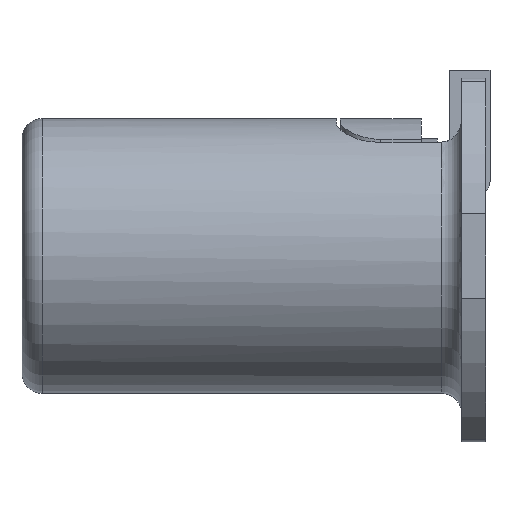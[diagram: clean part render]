
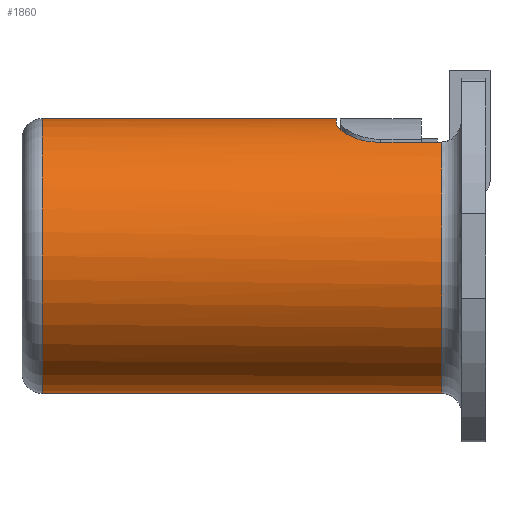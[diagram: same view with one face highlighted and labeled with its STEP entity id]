
A CAD part, left-side view. The second image highlights one B-rep face of the part: STEP entity #1860.
In plain terms, the highlighted cylindrical face has radius 1.7 mm (diameter 3.4 mm), a partial arc.
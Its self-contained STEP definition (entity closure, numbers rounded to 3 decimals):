
#254=CARTESIAN_POINT('',(0.,1.85,0.));
#255=DIRECTION('',(0.,-1.,0.));
#256=DIRECTION('',(0.,0.,1.));
#257=AXIS2_PLACEMENT_3D('',#254,#255,#256);
#264=DIRECTION('',(0.,1.,0.));
#265=VECTOR('',#264,3.64);
#266=CARTESIAN_POINT('',(0.,1.85,1.7));
#267=LINE('',#266,#265);
#268=CARTESIAN_POINT('',(-0.95,1.35,1.41));
#269=CARTESIAN_POINT('',(-0.95,1.366,1.41));
#270=CARTESIAN_POINT('',(-0.949,1.397,1.411));
#271=CARTESIAN_POINT('',(-0.942,1.444,1.415));
#272=CARTESIAN_POINT('',(-0.93,1.491,1.423));
#273=CARTESIAN_POINT('',(-0.914,1.538,1.433));
#274=CARTESIAN_POINT('',(-0.893,1.584,1.447));
#275=CARTESIAN_POINT('',(-0.866,1.629,1.463));
#276=CARTESIAN_POINT('',(-0.834,1.672,1.481));
#277=CARTESIAN_POINT('',(-0.797,1.711,1.502));
#278=CARTESIAN_POINT('',(-0.755,1.747,1.523));
#279=CARTESIAN_POINT('',(-0.709,1.779,1.545));
#280=CARTESIAN_POINT('',(-0.66,1.805,1.567));
#281=CARTESIAN_POINT('',(-0.609,1.825,1.588));
#282=CARTESIAN_POINT('',(-0.556,1.84,1.607));
#283=CARTESIAN_POINT('',(-0.503,1.848,1.624));
#284=CARTESIAN_POINT('',(-0.468,1.85,1.635));
#285=CARTESIAN_POINT('',(-0.45,1.85,1.639));
#287=DIRECTION('',(0.,1.,0.));
#288=VECTOR('',#287,0.8);
#289=CARTESIAN_POINT('',(-0.95,0.55,1.41));
#290=LINE('',#289,#288);
#291=DIRECTION('',(0.,1.,0.));
#292=VECTOR('',#291,4.94);
#293=CARTESIAN_POINT('',(0.,0.55,-1.7));
#294=LINE('',#293,#292);
#333=CARTESIAN_POINT('',(0.,5.49,0.));
#334=DIRECTION('',(0.,1.,0.));
#335=DIRECTION('',(0.,0.,-1.));
#336=AXIS2_PLACEMENT_3D('',#333,#334,#335);
#942=CARTESIAN_POINT('',(0.,0.55,0.));
#943=DIRECTION('',(0.,-1.,0.));
#944=DIRECTION('',(-0.559,0.,0.829));
#945=AXIS2_PLACEMENT_3D('',#942,#943,#944);
#962=CARTESIAN_POINT('',(-0.95,0.55,1.41));
#1426=CARTESIAN_POINT('',(0.,5.49,-1.7));
#1427=CARTESIAN_POINT('',(0.,5.49,1.7));
#1428=VERTEX_POINT('',#1426);
#1429=VERTEX_POINT('',#1427);
#1461=CARTESIAN_POINT('',(0.,0.55,-1.7));
#1462=VERTEX_POINT('',#1461);
#1509=VERTEX_POINT('',#268);
#1510=VERTEX_POINT('',#285);
#1515=VERTEX_POINT('',#962);
#1577=CARTESIAN_POINT('',(0.,1.85,1.7));
#1578=VERTEX_POINT('',#1577);
#1842=CARTESIAN_POINT('',(0.,5.74,0.));
#1843=DIRECTION('',(0.,-1.,0.));
#1844=DIRECTION('',(0.,0.,-1.));
#1845=AXIS2_PLACEMENT_3D('',#1842,#1843,#1844);
#1846=CYLINDRICAL_SURFACE('',#1845,1.7);
#1848=ORIENTED_EDGE('',*,*,#1847,.F.);
#1849=ORIENTED_EDGE('',*,*,#1833,.T.);
#1850=ORIENTED_EDGE('',*,*,#1586,.F.);
#1851=ORIENTED_EDGE('',*,*,#1616,.F.);
#1853=ORIENTED_EDGE('',*,*,#1852,.T.);
#1855=ORIENTED_EDGE('',*,*,#1854,.T.);
#1857=ORIENTED_EDGE('',*,*,#1856,.T.);
#1858=EDGE_LOOP('',(#1848,#1849,#1850,#1851,#1853,#1855,#1857));
#1859=FACE_OUTER_BOUND('',#1858,.F.);
#1860=ADVANCED_FACE('',(#1859),#1846,.T.);
#258=CIRCLE('',#257,1.7);
#286=B_SPLINE_CURVE_WITH_KNOTS('',3,(#268,#269,#270,#271,#272,#273,#274,#275,
#276,#277,#278,#279,#280,#281,#282,#283,#284,#285),.UNSPECIFIED.,.F.,.F.,(4,1,1,
1,1,1,1,1,1,1,1,1,1,1,1,4),(0.,0.067,0.133,0.2,
0.267,0.333,0.4,0.467,0.533,
0.6,0.667,0.733,0.8,0.867,
0.933,1.),.UNSPECIFIED.);
#337=CIRCLE('',#336,1.7);
#946=CIRCLE('',#945,1.7);
#1586=EDGE_CURVE('',#1509,#1510,#286,.T.);
#1616=EDGE_CURVE('',#1515,#1509,#290,.T.);
#1833=EDGE_CURVE('',#1578,#1510,#258,.T.);
#1847=EDGE_CURVE('',#1578,#1429,#267,.T.);
#1852=EDGE_CURVE('',#1515,#1462,#946,.T.);
#1854=EDGE_CURVE('',#1462,#1428,#294,.T.);
#1856=EDGE_CURVE('',#1428,#1429,#337,.T.);
